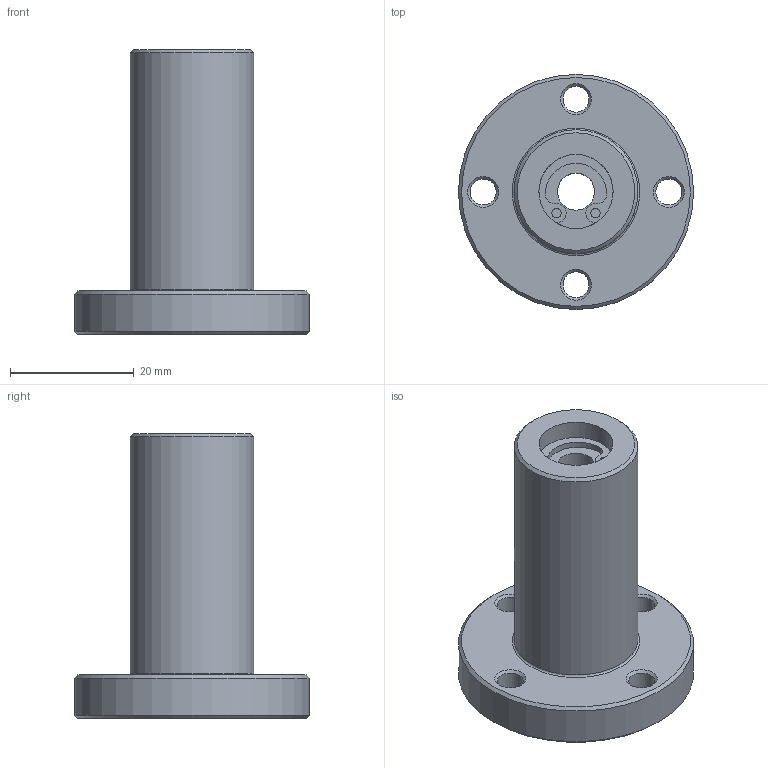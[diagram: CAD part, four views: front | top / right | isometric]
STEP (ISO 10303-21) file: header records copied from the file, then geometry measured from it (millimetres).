
FILE_DESCRIPTION(('STEP AP203'),'1');
FILE_NAME('//192.168.1.1/share/s-4 技術開発/s-4-4_CAD/s-4-4-3_見直し済み/009 修正済み/LCFD-A/LCFD-A_TOP/LCFD-6AVUU.step','2022-02-04T05:53:10',(' '),(' '),'Spatial InterOp 3D',' ',' ');
FILE_SCHEMA(('CONFIG_CONTROL_DESIGN'));
Length unit declared in the file: millimetre
Products named in the file (1): 1
Bounding box: 38 x 38 x 46 mm (x, y, z)
Volume: 17721.1 mm3; surface area: 6688.9 mm2
Topology: 1 solids, 1 shells, 56 faces, 126 edges, 80 vertices
Faces by surface type: cylinder 28, plane 16, cone 11, torus 1
Full cylindrical faces by diameter (mm): 1.5 x4, 4.2 x4, 6 x1, 12 x2, 20 x1, 22.3 x1, 38 x1
Entity records: 1500 total; most frequent: DIRECTION 282, CARTESIAN_POINT 233, ORIENTED_EDGE 196, AXIS2_PLACEMENT_3D 127, EDGE_LOOP 100, EDGE_CURVE 98, VERTEX_POINT 78, FACE_OUTER_BOUND 71
